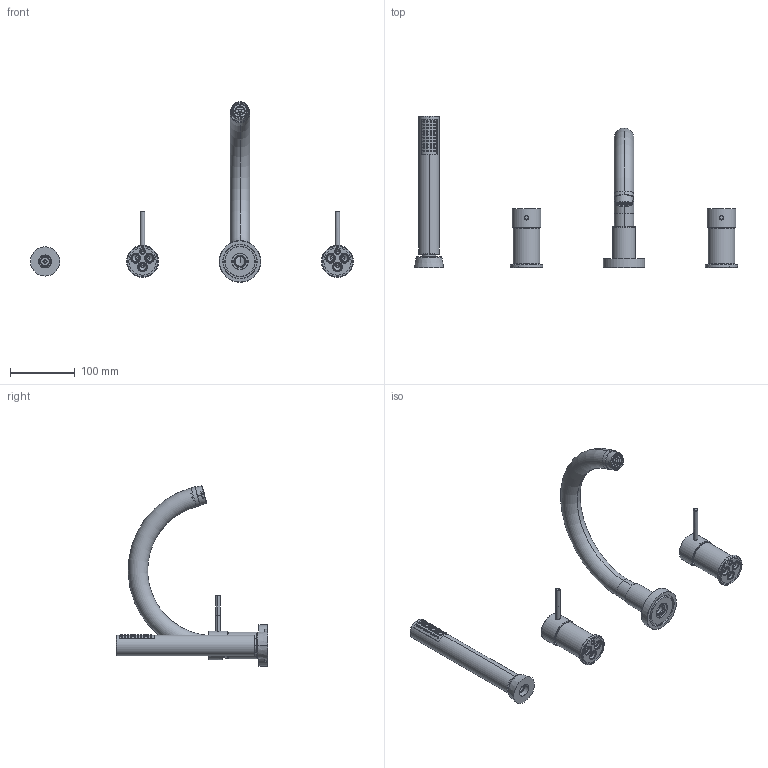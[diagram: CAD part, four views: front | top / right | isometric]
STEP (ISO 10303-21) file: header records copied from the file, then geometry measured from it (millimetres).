
FILE_DESCRIPTION((''),'2;1');
FILE_NAME('F3044_FILE_3D','2018-11-27T',('ivanv'),(''),'CREO PARAMETRIC BY PTC INC, 2016260','CREO PARAMETRIC BY PTC INC, 2016260','');
FILE_SCHEMA(('CONFIG_CONTROL_DESIGN'));
Length unit declared in the file: millimetre
Products named in the file (1): F3044_FILE_3D
Bounding box: 497.25 x 232.5 x 277.79 mm (x, y, z)
Volume: 445814.6 mm3; surface area: 188273.3 mm2
Topology: 6 solids, 6 shells, 1737 faces, 4228 edges, 2655 vertices
Faces by surface type: plane 778, cylinder 514, bspline 170, cone 138, torus 131, sphere 6
Entity records: 68690 total; most frequent: CARTESIAN_POINT 29089, ORIENTED_EDGE 8424, DIRECTION 7747, EDGE_CURVE 4212, VERTEX_POINT 2655, AXIS2_PLACEMENT_3D 2632, VECTOR 2483, LINE 2483
